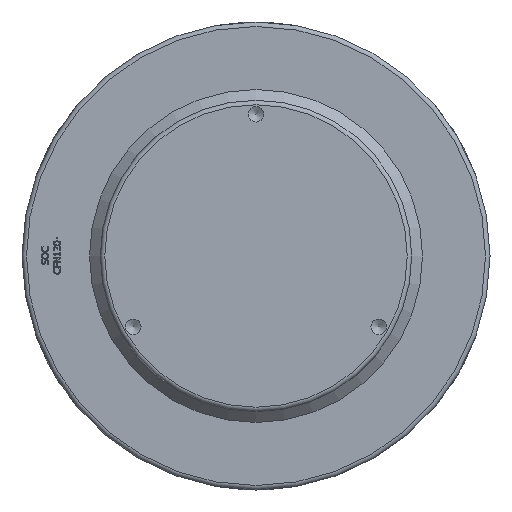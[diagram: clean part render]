
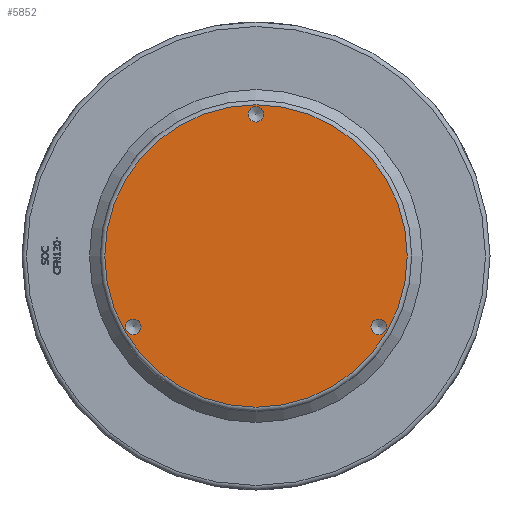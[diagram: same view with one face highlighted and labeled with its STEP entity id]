
A CAD part, front view. The second image highlights one B-rep face of the part: STEP entity #5852.
In plain terms, the highlighted planar face has unit normal (0, -1, 0) as drawn and (0, 1, 0) by its records, which use the part's own axes.
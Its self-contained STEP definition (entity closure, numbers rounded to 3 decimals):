
#1598=PLANE('',#6161);
#1682=FACE_BOUND('',#2244,.T.);
#1683=FACE_BOUND('',#2245,.T.);
#1684=FACE_BOUND('',#2246,.T.);
#1893=FACE_OUTER_BOUND('',#2243,.T.);
#2243=EDGE_LOOP('',(#4785));
#2244=EDGE_LOOP('',(#4786));
#2245=EDGE_LOOP('',(#4787));
#2246=EDGE_LOOP('',(#4788));
#2459=CIRCLE('',#6083,8.647);
#2461=CIRCLE('',#6087,8.647);
#2463=CIRCLE('',#6091,8.647);
#2465=CIRCLE('',#6159,168.);
#2485=VERTEX_POINT('',#7150);
#2487=VERTEX_POINT('',#7156);
#2489=VERTEX_POINT('',#7162);
#2769=VERTEX_POINT('',#9131);
#3077=EDGE_CURVE('',#2485,#2485,#2459,.T.);
#3079=EDGE_CURVE('',#2487,#2487,#2461,.T.);
#3081=EDGE_CURVE('',#2489,#2489,#2463,.T.);
#3500=EDGE_CURVE('',#2769,#2769,#2465,.T.);
#4785=ORIENTED_EDGE('',*,*,#3500,.F.);
#4786=ORIENTED_EDGE('',*,*,#3077,.T.);
#4787=ORIENTED_EDGE('',*,*,#3079,.T.);
#4788=ORIENTED_EDGE('',*,*,#3081,.T.);
#5852=ADVANCED_FACE('',(#1893,#1682,#1683,#1684),#1598,.T.);
#6083=AXIS2_PLACEMENT_3D('',#7151,#6281,#6282);
#6087=AXIS2_PLACEMENT_3D('',#7157,#6289,#6290);
#6091=AXIS2_PLACEMENT_3D('',#7163,#6297,#6298);
#6159=AXIS2_PLACEMENT_3D('',#9132,#6678,#6679);
#6161=AXIS2_PLACEMENT_3D('',#9135,#6682,#6683);
#6281=DIRECTION('center_axis',(0.,-1.,0.));
#6282=DIRECTION('ref_axis',(-0.5,0.,-0.866));
#6289=DIRECTION('center_axis',(0.,-1.,0.));
#6290=DIRECTION('ref_axis',(-0.5,0.,0.866));
#6297=DIRECTION('center_axis',(0.,-1.,0.));
#6298=DIRECTION('ref_axis',(1.,0.,0.));
#6678=DIRECTION('center_axis',(0.,-1.,0.));
#6679=DIRECTION('ref_axis',(-1.,0.,0.));
#6682=DIRECTION('center_axis',(0.,1.,0.));
#6683=DIRECTION('ref_axis',(0.,0.,1.));
#7150=CARTESIAN_POINT('',(132.076,315.,-86.239));
#7151=CARTESIAN_POINT('Origin',(136.399,315.,-78.75));
#7156=CARTESIAN_POINT('',(-140.723,315.,-71.261));
#7157=CARTESIAN_POINT('Origin',(-136.399,315.,-78.75));
#7162=CARTESIAN_POINT('',(8.647,315.,157.5));
#7163=CARTESIAN_POINT('Origin',(0.,315.,157.5));
#9131=CARTESIAN_POINT('',(168.,315.,0.));
#9132=CARTESIAN_POINT('Origin',(0.,315.,0.));
#9135=CARTESIAN_POINT('Origin',(173.,315.,0.));
